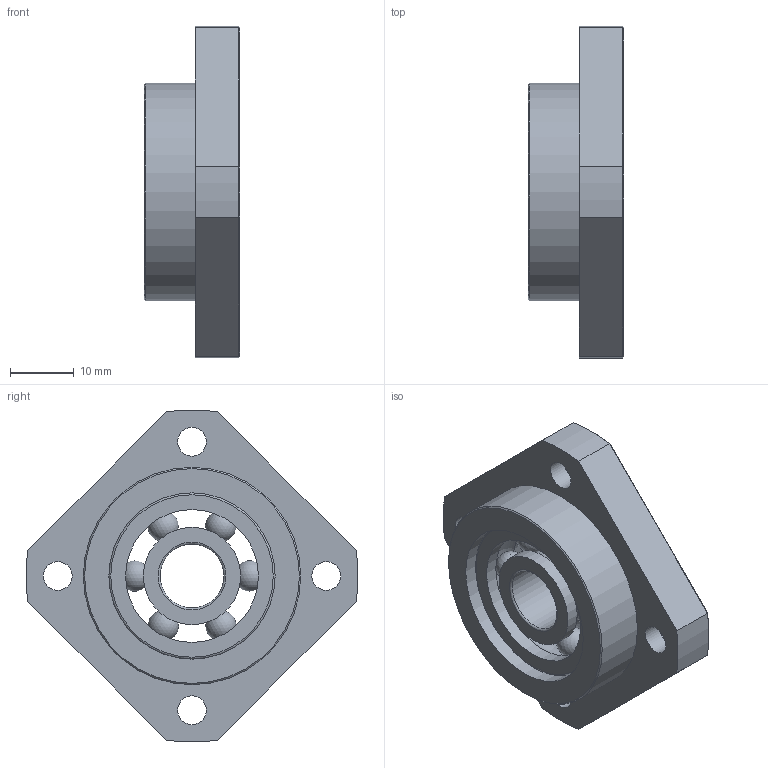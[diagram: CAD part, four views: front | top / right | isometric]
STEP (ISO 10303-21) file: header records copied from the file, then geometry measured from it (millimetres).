
FILE_DESCRIPTION(/* description */ (''),/* implementation_level */ '2;1');
FILE_NAME(/* name */ 'C:\Users\Nick_2\Dropbox\WG Projekte\Kamp und Kötter\Artikel\Lagerset Flanschlager (FK-FF)\02_STEP-Dateien\FF12-Flanschloslager-20160127.stp',/* time_stamp */ '2016-01-27T18:06:07+01:00',/* author */ ('Nick_2'),/* organization */ (''),/* preprocessor_version */ 'ST-DEVELOPER v15.6',/* originating_system */ 'Autodesk Inventor 2015',/* authorisation */ '');
FILE_SCHEMA (('AUTOMOTIVE_DESIGN { 1 0 10303 214 3 1 1 }'));
Length unit declared in the file: millimetre
Products named in the file (3): FF12_Flanschloslager; DIN 625 T1 - 6000 - 10 x 26 x 8; FF12-Flanschloslager-20150713
Assembly tree (2 placements, depth 2):
  FF12-Flanschloslager-20150713
    FF12_Flanschloslager
    DIN 625 T1 - 6000 - 10 x 26 x 8
Bounding box: 15 x 51.93 x 51.93 mm (x, y, z)
Volume: 12632 mm3; surface area: 8794.8 mm2
Topology: 9 solids, 9 shells, 70 faces, 157 edges, 98 vertices
Faces by surface type: cylinder 20, plane 19, torus 16, cone 9, sphere 6
Full cylindrical faces by diameter (mm): 4.5 x4, 8 x4, 10 x1, 15.216 x2, 20.784 x2, 26 x2, 34 x1
Entity records: 1822 total; most frequent: DIRECTION 340, CARTESIAN_POINT 297, ORIENTED_EDGE 250, AXIS2_PLACEMENT_3D 160, EDGE_LOOP 120, EDGE_CURVE 113, CIRCLE 85, VERTEX_POINT 85
